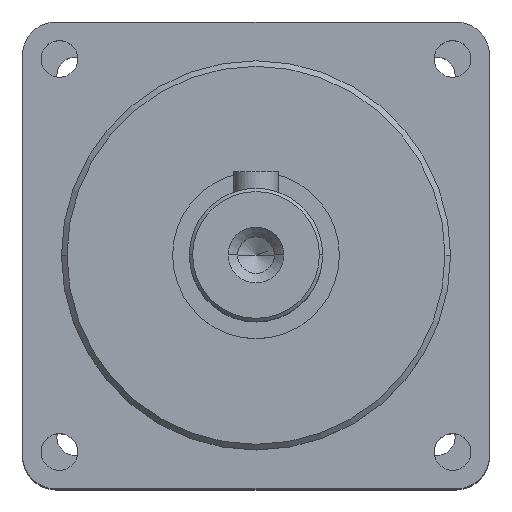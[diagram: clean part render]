
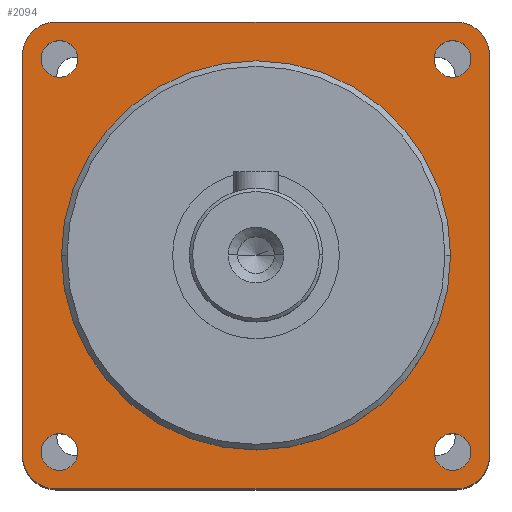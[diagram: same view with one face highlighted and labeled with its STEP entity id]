
A CAD part, top view. The second image highlights one B-rep face of the part: STEP entity #2094.
In plain terms, the highlighted planar face has unit normal (0, 0, 1).
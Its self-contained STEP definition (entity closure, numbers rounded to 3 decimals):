
#76 = AXIS2_PLACEMENT_3D ( 'NONE', #736, #737, #738 ) ;
#101 = AXIS2_PLACEMENT_3D ( 'NONE', #668, #669, #670 ) ;
#105 = AXIS2_PLACEMENT_3D ( 'NONE', #656, #657, #658 ) ;
#109 = AXIS2_PLACEMENT_3D ( 'NONE', #634, #635, #636 ) ;
#183 = PLANE ( 'NONE',  #2395 ) ;
#184 = EDGE_CURVE ( 'NONE', #3227, #3232, #970, .T. ) ;
#185 = CARTESIAN_POINT ( 'NONE',  ( -21., -21., 55.5 ) ) ;
#186 = DIRECTION ( 'NONE',  ( 0., 0., 1. ) ) ;
#188 = DIRECTION ( 'NONE',  ( 1., 0., 0. ) ) ;
#205 = EDGE_CURVE ( 'NONE', #3249, #3233, #954, .T. ) ;
#215 = EDGE_CURVE ( 'NONE', #3222, #3241, #943, .T. ) ;
#257 = EDGE_CURVE ( 'NONE', #3262, #3258, #1706, .T. ) ;
#271 = EDGE_CURVE ( 'NONE', #3253, #3229, #1578, .T. ) ;
#273 = EDGE_CURVE ( 'NONE', #3238, #4238, #1692, .T. ) ;
#275 = EDGE_CURVE ( 'NONE', #3225, #4237, #1574, .T. ) ;
#279 = EDGE_CURVE ( 'NONE', #3252, #3251, #1671, .T. ) ;
#283 = EDGE_CURVE ( 'NONE', #3241, #3222, #1681, .T. ) ;
#284 = EDGE_CURVE ( 'NONE', #3258, #3262, #1676, .T. ) ;
#285 = EDGE_CURVE ( 'NONE', #3233, #3249, #1665, .T. ) ;
#286 = EDGE_CURVE ( 'NONE', #3232, #3227, #1666, .T. ) ;
#287 = EDGE_CURVE ( 'NONE', #4238, #3225, #1662, .T. ) ;
#288 = EDGE_CURVE ( 'NONE', #4237, #3252, #1670, .T. ) ;
#289 = EDGE_CURVE ( 'NONE', #3251, #3253, #1669, .T. ) ;
#290 = EDGE_CURVE ( 'NONE', #3229, #3238, #1663, .T. ) ;
#551 = AXIS2_PLACEMENT_3D ( 'NONE', #3123, #3124, #3125 ) ;
#552 = AXIS2_PLACEMENT_3D ( 'NONE', #3126, #3127, #3128 ) ;
#553 = AXIS2_PLACEMENT_3D ( 'NONE', #3129, #3130, #3131 ) ;
#554 = AXIS2_PLACEMENT_3D ( 'NONE', #3132, #3133, #3134 ) ;
#555 = AXIS2_PLACEMENT_3D ( 'NONE', #3135, #3136, #3137 ) ;
#556 = AXIS2_PLACEMENT_3D ( 'NONE', #3138, #3139, #3140 ) ;
#557 = AXIS2_PLACEMENT_3D ( 'NONE', #3141, #3142, #3143 ) ;
#558 = AXIS2_PLACEMENT_3D ( 'NONE', #3144, #3145, #3146 ) ;
#634 = CARTESIAN_POINT ( 'NONE',  ( -17.678, 17.678, 55.5 ) ) ;
#635 = DIRECTION ( 'NONE',  ( 0., 0., 1. ) ) ;
#636 = DIRECTION ( 'NONE',  ( 1., 0., 0. ) ) ;
#656 = CARTESIAN_POINT ( 'NONE',  ( -17.678, -17.678, 55.5 ) ) ;
#657 = DIRECTION ( 'NONE',  ( 0., 0., 1. ) ) ;
#658 = DIRECTION ( 'NONE',  ( 0., 1., 0. ) ) ;
#668 = CARTESIAN_POINT ( 'NONE',  ( 17.678, 17.678, 55.5 ) ) ;
#669 = DIRECTION ( 'NONE',  ( 0., 0., 1. ) ) ;
#670 = DIRECTION ( 'NONE',  ( 0., -1., 0. ) ) ;
#736 = CARTESIAN_POINT ( 'NONE',  ( 17.678, -17.678, 55.5 ) ) ;
#737 = DIRECTION ( 'NONE',  ( 0., 0., 1. ) ) ;
#738 = DIRECTION ( 'NONE',  ( -1., 0., 0. ) ) ;
#943 = CIRCLE ( 'NONE', #101, 1.65 ) ;
#954 = CIRCLE ( 'NONE', #105, 1.65 ) ;
#970 = CIRCLE ( 'NONE', #109, 1.65 ) ;
#1574 = LINE ( 'NONE', #3107, #1726 ) ;
#1578 = LINE ( 'NONE', #3099, #1694 ) ;
#1650 = VECTOR ( 'NONE', #3104, 1000. ) ;
#1662 = CIRCLE ( 'NONE', #555, 3. ) ;
#1663 = CIRCLE ( 'NONE', #558, 3. ) ;
#1665 = CIRCLE ( 'NONE', #553, 1.65 ) ;
#1666 = CIRCLE ( 'NONE', #554, 1.65 ) ;
#1669 = CIRCLE ( 'NONE', #557, 3. ) ;
#1670 = CIRCLE ( 'NONE', #556, 3. ) ;
#1671 = LINE ( 'NONE', #3115, #1684 ) ;
#1676 = CIRCLE ( 'NONE', #552, 1.65 ) ;
#1681 = CIRCLE ( 'NONE', #551, 1.65 ) ;
#1684 = VECTOR ( 'NONE', #3116, 1000. ) ;
#1692 = LINE ( 'NONE', #3103, #1650 ) ;
#1694 = VECTOR ( 'NONE', #3100, 1000. ) ;
#1706 = CIRCLE ( 'NONE', #76, 1.65 ) ;
#1726 = VECTOR ( 'NONE', #3108, 1000. ) ;
#2094 = ADVANCED_FACE ( 'NONE', ( #4470, #4490, #4548, #4396, #4411 ), #183, .T. ) ;
#2395 = AXIS2_PLACEMENT_3D ( 'NONE', #185, #186, #188 ) ;
#2736 = EDGE_LOOP ( 'NONE', ( #3448, #3439, #3434, #3436, #3446, #3447, #3432, #3433 ) ) ;
#2737 = EDGE_LOOP ( 'NONE', ( #3417, #3425 ) ) ;
#2750 = EDGE_LOOP ( 'NONE', ( #3430, #3416 ) ) ;
#2751 = EDGE_LOOP ( 'NONE', ( #3419, #3418 ) ) ;
#2752 = EDGE_LOOP ( 'NONE', ( #3429, #3428 ) ) ;
#3099 = CARTESIAN_POINT ( 'NONE',  ( -21., 21., 55.5 ) ) ;
#3100 = DIRECTION ( 'NONE',  ( 0., -1., 0. ) ) ;
#3103 = CARTESIAN_POINT ( 'NONE',  ( -21., -21., 55.5 ) ) ;
#3104 = DIRECTION ( 'NONE',  ( 1., 0., 0. ) ) ;
#3107 = CARTESIAN_POINT ( 'NONE',  ( 21., -21., 55.5 ) ) ;
#3108 = DIRECTION ( 'NONE',  ( 0., 1., 0. ) ) ;
#3115 = CARTESIAN_POINT ( 'NONE',  ( 21., 21., 55.5 ) ) ;
#3116 = DIRECTION ( 'NONE',  ( -1., 0., 0. ) ) ;
#3123 = CARTESIAN_POINT ( 'NONE',  ( 17.678, 17.678, 55.5 ) ) ;
#3124 = DIRECTION ( 'NONE',  ( 0., 0., 1. ) ) ;
#3125 = DIRECTION ( 'NONE',  ( 0., -1., 0. ) ) ;
#3126 = CARTESIAN_POINT ( 'NONE',  ( 17.678, -17.678, 55.5 ) ) ;
#3127 = DIRECTION ( 'NONE',  ( 0., 0., 1. ) ) ;
#3128 = DIRECTION ( 'NONE',  ( -1., 0., 0. ) ) ;
#3129 = CARTESIAN_POINT ( 'NONE',  ( -17.678, -17.678, 55.5 ) ) ;
#3130 = DIRECTION ( 'NONE',  ( 0., 0., 1. ) ) ;
#3131 = DIRECTION ( 'NONE',  ( 0., 1., 0. ) ) ;
#3132 = CARTESIAN_POINT ( 'NONE',  ( -17.678, 17.678, 55.5 ) ) ;
#3133 = DIRECTION ( 'NONE',  ( 0., 0., 1. ) ) ;
#3134 = DIRECTION ( 'NONE',  ( 1., 0., 0. ) ) ;
#3135 = CARTESIAN_POINT ( 'NONE',  ( 18., -18., 55.5 ) ) ;
#3136 = DIRECTION ( 'NONE',  ( 0., 0., 1. ) ) ;
#3137 = DIRECTION ( 'NONE',  ( 1., 0., 0. ) ) ;
#3138 = CARTESIAN_POINT ( 'NONE',  ( 18., 18., 55.5 ) ) ;
#3139 = DIRECTION ( 'NONE',  ( 0., 0., 1. ) ) ;
#3140 = DIRECTION ( 'NONE',  ( 1., 0., 0. ) ) ;
#3141 = CARTESIAN_POINT ( 'NONE',  ( -18., 18., 55.5 ) ) ;
#3142 = DIRECTION ( 'NONE',  ( 0., 0., 1. ) ) ;
#3143 = DIRECTION ( 'NONE',  ( 1., 0., 0. ) ) ;
#3144 = CARTESIAN_POINT ( 'NONE',  ( -18., -18., 55.5 ) ) ;
#3145 = DIRECTION ( 'NONE',  ( 0., 0., 1. ) ) ;
#3146 = DIRECTION ( 'NONE',  ( 1., 0., 0. ) ) ;
#3222 = VERTEX_POINT ( 'NONE', #3975 ) ;
#3225 = VERTEX_POINT ( 'NONE', #3978 ) ;
#3227 = VERTEX_POINT ( 'NONE', #3980 ) ;
#3229 = VERTEX_POINT ( 'NONE', #3982 ) ;
#3232 = VERTEX_POINT ( 'NONE', #3985 ) ;
#3233 = VERTEX_POINT ( 'NONE', #3986 ) ;
#3238 = VERTEX_POINT ( 'NONE', #3991 ) ;
#3241 = VERTEX_POINT ( 'NONE', #3994 ) ;
#3249 = VERTEX_POINT ( 'NONE', #4002 ) ;
#3251 = VERTEX_POINT ( 'NONE', #4004 ) ;
#3252 = VERTEX_POINT ( 'NONE', #4005 ) ;
#3253 = VERTEX_POINT ( 'NONE', #4006 ) ;
#3258 = VERTEX_POINT ( 'NONE', #4011 ) ;
#3262 = VERTEX_POINT ( 'NONE', #4015 ) ;
#3416 = ORIENTED_EDGE ( 'NONE', *, *, #215, .F. ) ;
#3417 = ORIENTED_EDGE ( 'NONE', *, *, #285, .F. ) ;
#3418 = ORIENTED_EDGE ( 'NONE', *, *, #184, .F. ) ;
#3419 = ORIENTED_EDGE ( 'NONE', *, *, #286, .F. ) ;
#3425 = ORIENTED_EDGE ( 'NONE', *, *, #205, .F. ) ;
#3428 = ORIENTED_EDGE ( 'NONE', *, *, #257, .F. ) ;
#3429 = ORIENTED_EDGE ( 'NONE', *, *, #284, .F. ) ;
#3430 = ORIENTED_EDGE ( 'NONE', *, *, #283, .F. ) ;
#3432 = ORIENTED_EDGE ( 'NONE', *, *, #271, .T. ) ;
#3433 = ORIENTED_EDGE ( 'NONE', *, *, #290, .T. ) ;
#3434 = ORIENTED_EDGE ( 'NONE', *, *, #275, .T. ) ;
#3436 = ORIENTED_EDGE ( 'NONE', *, *, #288, .T. ) ;
#3439 = ORIENTED_EDGE ( 'NONE', *, *, #287, .T. ) ;
#3446 = ORIENTED_EDGE ( 'NONE', *, *, #279, .T. ) ;
#3447 = ORIENTED_EDGE ( 'NONE', *, *, #289, .T. ) ;
#3448 = ORIENTED_EDGE ( 'NONE', *, *, #273, .T. ) ;
#3975 = CARTESIAN_POINT ( 'NONE',  ( 17.678, 19.328, 55.5 ) ) ;
#3978 = CARTESIAN_POINT ( 'NONE',  ( 21., -18., 55.5 ) ) ;
#3980 = CARTESIAN_POINT ( 'NONE',  ( -19.328, 17.678, 55.5 ) ) ;
#3982 = CARTESIAN_POINT ( 'NONE',  ( -21., -18., 55.5 ) ) ;
#3985 = CARTESIAN_POINT ( 'NONE',  ( -16.028, 17.678, 55.5 ) ) ;
#3986 = CARTESIAN_POINT ( 'NONE',  ( -17.678, -16.028, 55.5 ) ) ;
#3991 = CARTESIAN_POINT ( 'NONE',  ( -18., -21., 55.5 ) ) ;
#3994 = CARTESIAN_POINT ( 'NONE',  ( 17.678, 16.028, 55.5 ) ) ;
#4002 = CARTESIAN_POINT ( 'NONE',  ( -17.678, -19.328, 55.5 ) ) ;
#4004 = CARTESIAN_POINT ( 'NONE',  ( -18., 21., 55.5 ) ) ;
#4005 = CARTESIAN_POINT ( 'NONE',  ( 18., 21., 55.5 ) ) ;
#4006 = CARTESIAN_POINT ( 'NONE',  ( -21., 18., 55.5 ) ) ;
#4011 = CARTESIAN_POINT ( 'NONE',  ( 16.028, -17.678, 55.5 ) ) ;
#4015 = CARTESIAN_POINT ( 'NONE',  ( 19.328, -17.678, 55.5 ) ) ;
#4047 = CARTESIAN_POINT ( 'NONE',  ( 21., 18., 55.5 ) ) ;
#4048 = CARTESIAN_POINT ( 'NONE',  ( 18., -21., 55.5 ) ) ;
#4237 = VERTEX_POINT ( 'NONE', #4047 ) ;
#4238 = VERTEX_POINT ( 'NONE', #4048 ) ;
#4396 = FACE_BOUND ( 'NONE', #2751, .T. ) ;
#4411 = FACE_OUTER_BOUND ( 'NONE', #2736, .T. ) ;
#4470 = FACE_BOUND ( 'NONE', #2750, .T. ) ;
#4490 = FACE_BOUND ( 'NONE', #2752, .T. ) ;
#4548 = FACE_BOUND ( 'NONE', #2737, .T. ) ;
